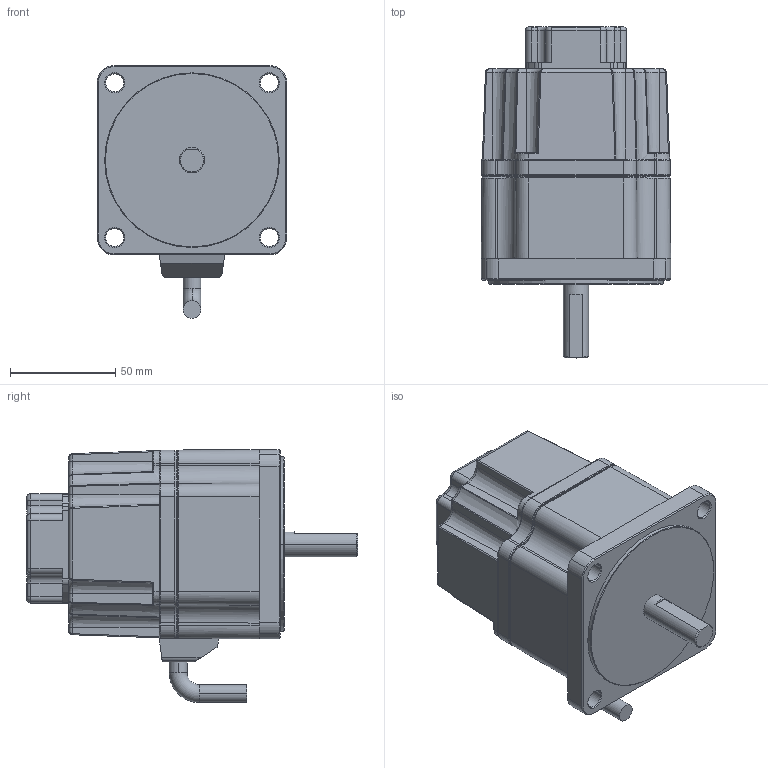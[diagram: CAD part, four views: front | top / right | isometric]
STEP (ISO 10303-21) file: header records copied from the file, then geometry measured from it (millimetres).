
FILE_DESCRIPTION (( 'STEP AP214' ), '1' );
FILE_NAME ('X Series 100w_brake_encoder_S.STEP', '2023-08-16T06:31:28', ( '' ), ( '' ), 'SwSTEP 2.0', 'SolidWorks 2022', '' );
FILE_SCHEMA (( 'AUTOMOTIVE_DESIGN' ));
Length unit declared in the file: millimetre
Products named in the file (7): ENCODER COVER; K9 BRAKE COVER.stp; LEAD BUSH.stp; K9BS90N﹤.stp; X Series 100w_brake_S.stp; ENCODER COVER ASS''Y; X Series 100w_brake_encoder_S
Assembly tree (6 placements, depth 3):
  X Series 100w_brake_encoder_S
    X Series 100w_brake_S.stp
      K9 BRAKE COVER.stp
      K9BS90N﹤.stp
    ENCODER COVER ASS''Y
      LEAD BUSH.stp
      ENCODER COVER
Bounding box: 90 x 157.8 x 120.25 mm (x, y, z)
Volume: 485734.5 mm3; surface area: 103716.3 mm2
Topology: 4 solids, 5 shells, 1208 faces, 3070 edges, 1857 vertices
Faces by surface type: cylinder 445, plane 381, bspline 161, torus 130, cone 75, sphere 16
Entity records: 41549 total; most frequent: CARTESIAN_POINT 12225, ORIENTED_EDGE 6056, DIRECTION 5864, EDGE_CURVE 3028, AXIS2_PLACEMENT_3D 2173, VERTEX_POINT 1857, VECTOR 1518, LINE 1518
